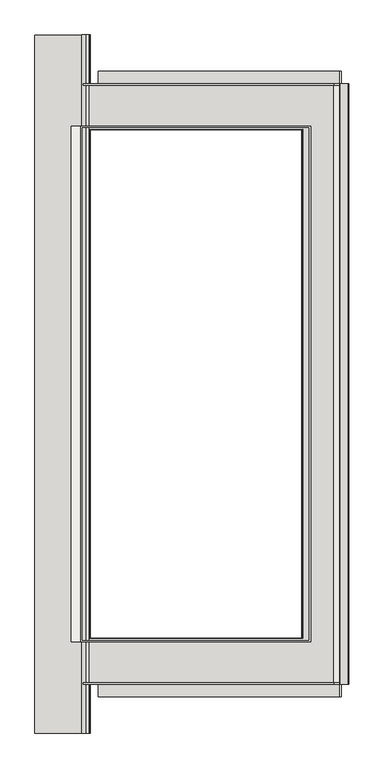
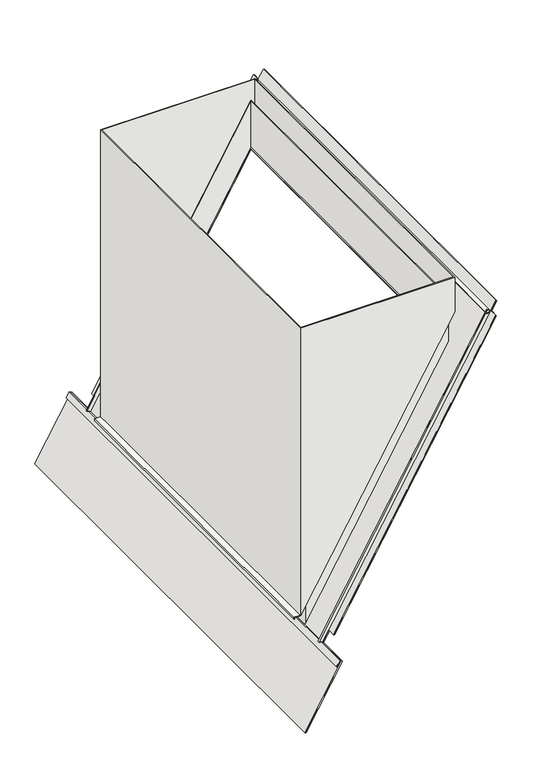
"""IFC4 building model written with IfcOpenShell, lengths in millimetres: covering geometry, MG_BPC_Delta Discovery Air_mountingbox-PA_M&G : mountingbox DDA-XL."""

from ifc_helpers import new_model, si_unit, frame, origin, place, context, project, spatial, polyline, outline, extrude, faceted_brep, source, transform, mapped, element, save


def covering_e1946cb7(model_context):
    return source(origin(), model_context, "Body", "SolidModel", [
        extrude(outline(polyline([(0.0, 0.0), (0.0, -350.0), (-157.5, -350.0), (-157.5, -410.0), (-117.5, -410.0), (-117.5, -1970.0), (-157.5, -1970.0), (-157.5, -2020.0), (-2097.5, -2020.0), (-2097.5, -1970.0), (-2137.5, -1970.0), (-2137.5, -410.0), (-2097.5, -410.0), (-2097.5, -350.0), (-2255.0, -350.0), (-2255.0, 0.0), (0.0, 0.0)]), holes=[polyline([(-1947.5, -350.0), (-1947.5, -1720.0), (-307.5, -1720.0), (-307.5, -350.0), (-1947.5, -350.0)])]), frame((-175.0, 1127.5, -303.1088913), z_axis=(-0.8660254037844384, 0.0, 0.5000000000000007), x_axis=(0.0, 1.0, 0.0)), (0.0, 0.0, 1.0), 5.0),
        faceted_brep([(0.0, 820.0, 244.0), (0.0, 820.0, 0.0), (684.0, 820.0, 1184.7227524), (684.0, 820.0, 1428.7227524), (0.0, -820.0, 244.0), (0.0, -820.0, 0.0), (684.0, -820.0, 1428.7227524), (684.0, -820.0, 1184.7227524), (685.9866683, 822.0, 1432.1637627), (685.9866683, 822.0, 1188.1637627), (-2.0066659, 822.0, -3.4756472), (-2.0066659, 822.0, 240.5243528), (-2.0066659, -822.0, -3.4756472), (-2.0066659, -822.0, 240.5243528), (685.9866683, -822.0, 1188.1637627), (685.9866683, -822.0, 1432.1637627)], [[[0, 1, 2, 3]], [[1, 0, 4, 5]], [[5, 4, 6, 7]], [[7, 6, 3, 2]], [[8, 9, 10, 11]], [[11, 10, 12, 13]], [[13, 12, 14, 15]], [[9, 8, 15, 14]], [[10, 9, 14, 12], [2, 1, 5, 7]], [[8, 11, 13, 15], [0, 3, 6, 4]]]),
        faceted_brep([(710.9866683, -833.0, 1526.4650329), (710.9866683, -833.0, 1351.4650329), (710.9866683, 833.0, 1351.4650329), (710.9866683, 833.0, 1526.4650329), (-32.0066659, 833.0, 64.5628285), (-32.0066659, 833.0, 1526.4650329), (-32.0066659, -833.0, 64.5628285), (-32.0066659, -833.0, 1526.4650329), (-27.0066659, -828.0, 1526.4650329), (-27.0066659, -828.0, 73.2230826), (-27.0066659, 828.0, 73.2230826), (-27.0066659, 828.0, 1526.4650329), (705.9866683, 828.0, 1342.8047789), (705.9866683, 828.0, 1526.4650329), (705.9866683, -828.0, 1342.8047789), (705.9866683, -828.0, 1526.4650329)], [[[0, 1, 2, 3]], [[3, 2, 4, 5]], [[5, 4, 6, 7]], [[1, 0, 7, 6]], [[8, 9, 10, 11]], [[11, 10, 12, 13]], [[13, 12, 14, 15]], [[9, 8, 15, 14]], [[2, 1, 6, 4], [10, 9, 14, 12]], [[0, 3, 5, 7], [8, 11, 13, 15]]]),
        extrude(outline(polyline([(7.5, -12.9903811), (-18.4807621, -27.9903811), (-19.9807621, -25.3923048), (3.4019238, -11.8923048), (-0.0980762, -5.830127), (2.5, -4.330127), (7.5, -12.9903811)])), frame((0.0, -1127.5, 0.0), z_axis=(0.0, 1.0, 0.0), x_axis=(0.0, 0.0, 1.0)), (0.0, 0.0, 1.0), 2255.0),
        extrude(outline(polyline([(65.5628285, -62.0066659), (55.5628285, -62.0066659), (55.5628285, -61.0066659), (64.5628285, -61.0066659), (64.5628285, -32.0066659), (65.5628285, -32.0066659), (65.5628285, -62.0066659)])), frame((0.0, -833.0, 0.0), z_axis=(0.0, 1.0, 0.0), x_axis=(0.0, 0.0, 1.0)), (0.0, 0.0, 1.0), 1666.0),
        extrude(outline(polyline([(0.0, -20.0), (0.0, 0.0), (1940.0, 0.0), (1940.0, -20.0), (0.0, -20.0)])), frame((787.6454517, -970.0, 1395.4551441), z_axis=(-0.25881904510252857, 0.0, 0.9659258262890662), x_axis=(0.0, 1.0, 0.0)), (0.0, 0.0, 1.0), 5.0),
        extrude(outline(polyline([(-40.0, 20.0), (-40.0, 0.0), (-45.0, 0.0), (-45.0, 20.0), (-40.0, 20.0)])), frame((-5.830127, 1010.0, -0.0980762), z_axis=(0.5000000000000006, 0.0, 0.8660254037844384), x_axis=(0.0, 1.0, 0.0)), (0.0, 0.0, 1.0), 1623.0),
        extrude(outline(polyline([(-40.0, -20.0), (-45.0, -20.0), (-45.0, 0.0), (-40.0, 0.0), (-40.0, -20.0)])), frame((-5.830127, -1010.0, -0.0980762), z_axis=(0.5000000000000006, 0.0, 0.8660254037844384), x_axis=(0.0, -1.0, 0.0)), (0.0, 0.0, 1.0), 1623.0),
    ])


if __name__ == "__main__":
    model = new_model("IFC4")
    model_context = context("Model", 3, world=origin())
    ifc_project = project(units=[si_unit("LENGTHUNIT", "METRE", prefix="MILLI")], contexts=[model_context])
    site = spatial("IfcSite", under=ifc_project)
    building = spatial("IfcBuilding", under=site)
    placement = place(None, origin())
    covering_shape = covering_e1946cb7(model_context)
    element("IfcCovering", 1, ObjectType="MG_BPC_Delta Discovery Air_mountingbox-PA_M&G : mountingbox DDA-XL", at=placement, inside=building, context=model_context, shape_type="MappedRepresentation", body=[
        mapped(covering_shape, transform((0.0, 0.0, 0.0), x_axis=(1.0, 0.0, 0.0), y_axis=(0.0, 1.0, 0.0), z_axis=(0.0, 0.0, 1.0))),
    ])
    save(model, "model.ifc")
